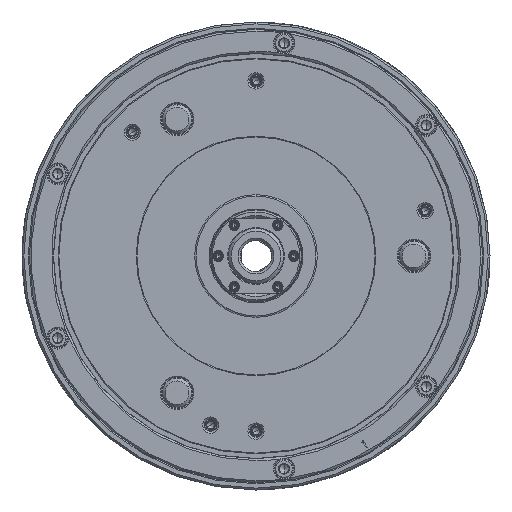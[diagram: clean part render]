
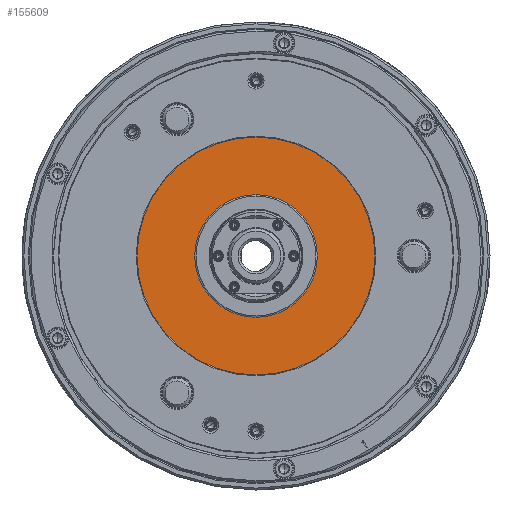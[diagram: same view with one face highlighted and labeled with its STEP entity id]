
A CAD part, left-side view. The second image highlights one B-rep face of the part: STEP entity #155609.
In plain terms, the highlighted planar face has unit normal (-1, 0, 0) as drawn and (0, 0, -1) by its records, which use the part's own axes.
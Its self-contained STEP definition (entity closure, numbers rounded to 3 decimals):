
#2089 = CARTESIAN_POINT ( 'NONE',  ( 0., 0., -126.8 ) ) ;
#4782 = FACE_OUTER_BOUND ( 'NONE', #34210, .T. ) ;
#6170 = CARTESIAN_POINT ( 'NONE',  ( 33.3, 0., -126.8 ) ) ;
#12520 = DIRECTION ( 'NONE',  ( 0., 0., -1. ) ) ;
#12624 = DIRECTION ( 'NONE',  ( -1., 0., 0. ) ) ;
#13612 = CIRCLE ( 'NONE', #135957, 33.3 ) ;
#26039 = AXIS2_PLACEMENT_3D ( 'NONE', #79563, #110699, #12624 ) ;
#30288 = ORIENTED_EDGE ( 'NONE', *, *, #133267, .F. ) ;
#31552 = VERTEX_POINT ( 'NONE', #171337 ) ;
#33085 = DIRECTION ( 'NONE',  ( 0., 0., -1. ) ) ;
#33696 = AXIS2_PLACEMENT_3D ( 'NONE', #2089, #33085, #87483 ) ;
#34210 = EDGE_LOOP ( 'NONE', ( #145790, #114111 ) ) ;
#37591 = CARTESIAN_POINT ( 'NONE',  ( 0., 0., -126.8 ) ) ;
#41919 = CARTESIAN_POINT ( 'NONE',  ( 0., 0., -126.8 ) ) ;
#43096 = CIRCLE ( 'NONE', #26039, 64.616 ) ;
#45996 = CIRCLE ( 'NONE', #157084, 64.616 ) ;
#46705 = PLANE ( 'NONE',  #99315 ) ;
#79563 = CARTESIAN_POINT ( 'NONE',  ( 0., 0., -126.8 ) ) ;
#81101 = EDGE_LOOP ( 'NONE', ( #30288, #94791 ) ) ;
#84857 = EDGE_CURVE ( 'NONE', #88046, #31552, #43096, .T. ) ;
#87483 = DIRECTION ( 'NONE',  ( -1., 0., 0. ) ) ;
#87796 = CIRCLE ( 'NONE', #33696, 33.3 ) ;
#88046 = VERTEX_POINT ( 'NONE', #171760 ) ;
#94791 = ORIENTED_EDGE ( 'NONE', *, *, #131658, .F. ) ;
#97583 = DIRECTION ( 'NONE',  ( 1., 0., 0. ) ) ;
#99315 = AXIS2_PLACEMENT_3D ( 'NONE', #167168, #168066, #97583 ) ;
#105390 = DIRECTION ( 'NONE',  ( 0., 0., -1. ) ) ;
#110699 = DIRECTION ( 'NONE',  ( 0., 0., -1. ) ) ;
#114111 = ORIENTED_EDGE ( 'NONE', *, *, #139797, .T. ) ;
#126238 = VERTEX_POINT ( 'NONE', #152008 ) ;
#131658 = EDGE_CURVE ( 'NONE', #161948, #126238, #13612, .T. ) ;
#133027 = DIRECTION ( 'NONE',  ( -1., 0., 0. ) ) ;
#133267 = EDGE_CURVE ( 'NONE', #126238, #161948, #87796, .T. ) ;
#135957 = AXIS2_PLACEMENT_3D ( 'NONE', #41919, #12520, #138245 ) ;
#138245 = DIRECTION ( 'NONE',  ( -1., 0., 0. ) ) ;
#139797 = EDGE_CURVE ( 'NONE', #31552, #88046, #45996, .T. ) ;
#141248 = FACE_BOUND ( 'NONE', #81101, .T. ) ;
#145790 = ORIENTED_EDGE ( 'NONE', *, *, #84857, .T. ) ;
#152008 = CARTESIAN_POINT ( 'NONE',  ( -33.3, 0., -126.8 ) ) ;
#155609 = ADVANCED_FACE ( 'NONE', ( #141248, #4782 ), #46705, .F. ) ;
#157084 = AXIS2_PLACEMENT_3D ( 'NONE', #37591, #105390, #133027 ) ;
#161948 = VERTEX_POINT ( 'NONE', #6170 ) ;
#167168 = CARTESIAN_POINT ( 'NONE',  ( 0., -64.616, -126.8 ) ) ;
#168066 = DIRECTION ( 'NONE',  ( 0., 0., 1. ) ) ;
#171337 = CARTESIAN_POINT ( 'NONE',  ( 64.616, 0., -126.8 ) ) ;
#171760 = CARTESIAN_POINT ( 'NONE',  ( -64.616, 0., -126.8 ) ) ;
